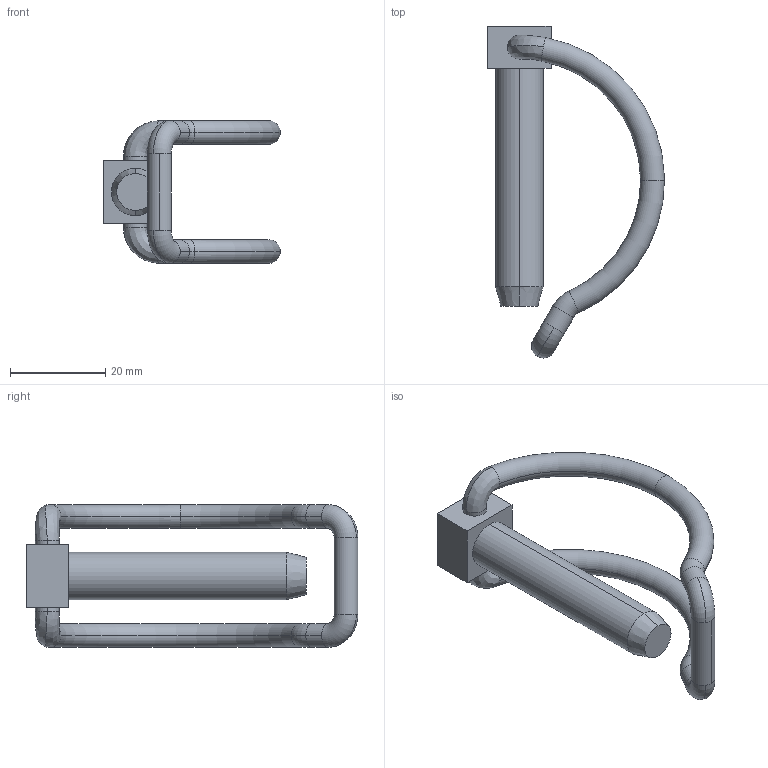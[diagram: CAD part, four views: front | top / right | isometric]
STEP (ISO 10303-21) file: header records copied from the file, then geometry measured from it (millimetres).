
FILE_DESCRIPTION (( 'STEP AP203' ), '1' );
FILE_NAME ('33320.W0102.step', '2025-02-04T13:41:18', ( '' ), ( '' ), 'SwSTEP 2.0', 'SolidWorks 2019', '' );
FILE_SCHEMA (( 'CONFIG_CONTROL_DESIGN' ));
Length unit declared in the file: millimetre
Products named in the file (3): part1_33320.W0102; 33320.W0102; Part5_33320.W0102
Assembly tree (2 placements, depth 2):
  33320.W0102
    part1_33320.W0102
    Part5_33320.W0102
Bounding box: 37.15 x 69.7 x 30 mm (x, y, z)
Volume: 9338.7 mm3; surface area: 5896.7 mm2
Topology: 2 solids, 2 shells, 43 faces, 98 edges, 60 vertices
Faces by surface type: cylinder 14, torus 14, plane 9, bspline 4, cone 2
Entity records: 1827 total; most frequent: CARTESIAN_POINT 518, DIRECTION 248, ORIENTED_EDGE 196, AXIS2_PLACEMENT_3D 110, EDGE_CURVE 98, CIRCLE 66, VERTEX_POINT 60, EDGE_LOOP 46
